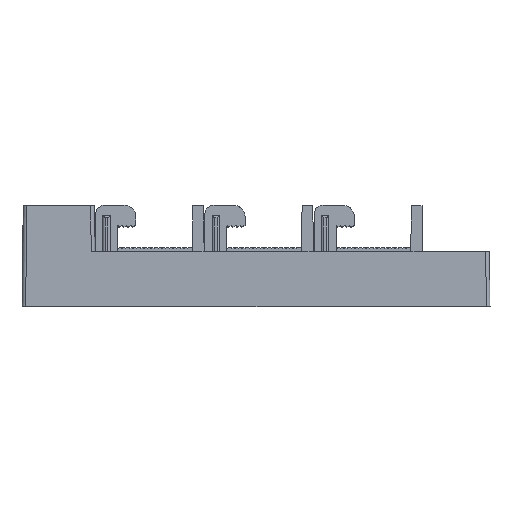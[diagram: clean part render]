
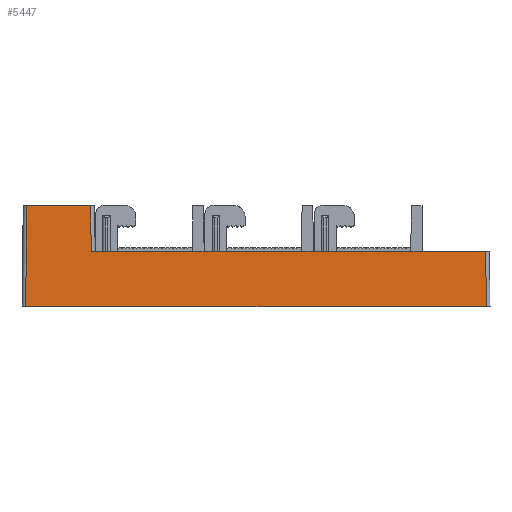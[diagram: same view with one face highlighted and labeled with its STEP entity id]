
A CAD part, left-side view. The second image highlights one B-rep face of the part: STEP entity #5447.
In plain terms, the highlighted planar face has unit normal (-1, 0, 0.012).
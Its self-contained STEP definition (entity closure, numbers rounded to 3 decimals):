
#1427 = EDGE_CURVE ( 'NONE', #52885, #62897, #76724, .T. ) ;
#1571 = LINE ( 'NONE', #44178, #34774 ) ;
#2860 = CARTESIAN_POINT ( 'NONE',  ( -92.057, -132.112, 259.762 ) ) ;
#2947 = LINE ( 'NONE', #70499, #38458 ) ;
#3259 = VECTOR ( 'NONE', #31513, 1000. ) ;
#4306 = VERTEX_POINT ( 'NONE', #62040 ) ;
#5045 = CARTESIAN_POINT ( 'NONE',  ( -91.752, -132.112, 284.762 ) ) ;
#5308 = VECTOR ( 'NONE', #27426, 1000. ) ;
#5447 = ADVANCED_FACE ( 'NONE', ( #68856 ), #64736, .T. ) ;
#5706 = CARTESIAN_POINT ( 'NONE',  ( -92.424, -132.112, 229.762 ) ) ;
#7959 = EDGE_CURVE ( 'NONE', #32228, #4306, #86227, .T. ) ;
#8314 = VERTEX_POINT ( 'NONE', #76175 ) ;
#11178 = EDGE_CURVE ( 'NONE', #53173, #52604, #67805, .T. ) ;
#11653 = VERTEX_POINT ( 'NONE', #61668 ) ;
#13556 = ORIENTED_EDGE ( 'NONE', *, *, #31509, .T. ) ;
#13646 = DIRECTION ( 'NONE',  ( 0., 1., 0. ) ) ;
#15588 = VECTOR ( 'NONE', #17327, 1000. ) ;
#17327 = DIRECTION ( 'NONE',  ( 0., 1., 0. ) ) ;
#19697 = VECTOR ( 'NONE', #77256, 1000. ) ;
#20625 = LINE ( 'NONE', #70457, #39296 ) ;
#21264 = AXIS2_PLACEMENT_3D ( 'NONE', #5706, #52115, #58848 ) ;
#21308 = VERTEX_POINT ( 'NONE', #73195 ) ;
#21630 = CARTESIAN_POINT ( 'NONE',  ( -92.43, -132.112, 229.262 ) ) ;
#24374 = ORIENTED_EDGE ( 'NONE', *, *, #81561, .T. ) ;
#24937 = DIRECTION ( 'NONE',  ( 0., 1., 0. ) ) ;
#25240 = ORIENTED_EDGE ( 'NONE', *, *, #7959, .T. ) ;
#26390 = ORIENTED_EDGE ( 'NONE', *, *, #52793, .T. ) ;
#27426 = DIRECTION ( 'NONE',  ( 0., -1., 0. ) ) ;
#28738 = CARTESIAN_POINT ( 'NONE',  ( -92.43, -130.118, 229.262 ) ) ;
#29031 = VECTOR ( 'NONE', #30831, 1000. ) ;
#29762 = VECTOR ( 'NONE', #57872, 1000. ) ;
#30796 = CARTESIAN_POINT ( 'NONE',  ( -92.057, -132.112, 259.762 ) ) ;
#30831 = DIRECTION ( 'NONE',  ( 0., 1., 0. ) ) ;
#31326 = CARTESIAN_POINT ( 'NONE',  ( -92.057, -132.112, 259.762 ) ) ;
#31509 = EDGE_CURVE ( 'NONE', #21308, #58412, #40787, .T. ) ;
#31513 = DIRECTION ( 'NONE',  ( 0.012, 0.012, 1. ) ) ;
#32228 = VERTEX_POINT ( 'NONE', #76182 ) ;
#32834 = EDGE_CURVE ( 'NONE', #8314, #53173, #2947, .T. ) ;
#33427 = ORIENTED_EDGE ( 'NONE', *, *, #66341, .T. ) ;
#34774 = VECTOR ( 'NONE', #71937, 1000. ) ;
#35822 = EDGE_CURVE ( 'NONE', #53990, #76337, #1571, .T. ) ;
#37580 = ORIENTED_EDGE ( 'NONE', *, *, #35822, .T. ) ;
#38458 = VECTOR ( 'NONE', #83381, 1000. ) ;
#39296 = VECTOR ( 'NONE', #43283, 1000. ) ;
#40580 = ORIENTED_EDGE ( 'NONE', *, *, #32834, .T. ) ;
#40787 = LINE ( 'NONE', #21630, #5308 ) ;
#42488 = DIRECTION ( 'NONE',  ( 0.012, 0.012, 1. ) ) ;
#42635 = VECTOR ( 'NONE', #42488, 1000. ) ;
#42918 = LINE ( 'NONE', #45828, #3259 ) ;
#43283 = DIRECTION ( 'NONE',  ( -0.012, 0.012, -1. ) ) ;
#44178 = CARTESIAN_POINT ( 'NONE',  ( -92.057, -132.112, 259.762 ) ) ;
#45530 = CARTESIAN_POINT ( 'NONE',  ( -92.057, -88.612, 259.762 ) ) ;
#45828 = CARTESIAN_POINT ( 'NONE',  ( -92.057, 86.888, 259.762 ) ) ;
#45962 = ORIENTED_EDGE ( 'NONE', *, *, #85703, .T. ) ;
#47251 = VECTOR ( 'NONE', #24937, 1000. ) ;
#52115 = DIRECTION ( 'NONE',  ( -1., 0., 0.012 ) ) ;
#52239 = CARTESIAN_POINT ( 'NONE',  ( -92.057, -129.746, 259.762 ) ) ;
#52604 = VERTEX_POINT ( 'NONE', #79062 ) ;
#52793 = EDGE_CURVE ( 'NONE', #4306, #21308, #20625, .T. ) ;
#52885 = VERTEX_POINT ( 'NONE', #52239 ) ;
#53173 = VERTEX_POINT ( 'NONE', #83068 ) ;
#53333 = EDGE_LOOP ( 'NONE', ( #79756, #33427, #37580, #45962, #24374, #40580, #67133, #79268, #25240, #26390, #13556, #56445 ) ) ;
#53990 = VERTEX_POINT ( 'NONE', #45530 ) ;
#56445 = ORIENTED_EDGE ( 'NONE', *, *, #81424, .T. ) ;
#57872 = DIRECTION ( 'NONE',  ( 0., 1., 0. ) ) ;
#58412 = VERTEX_POINT ( 'NONE', #68560 ) ;
#58848 = DIRECTION ( 'NONE',  ( 0.012, 0., 1. ) ) ;
#60453 = LINE ( 'NONE', #28738, #42635 ) ;
#61668 = CARTESIAN_POINT ( 'NONE',  ( -92.057, -28.612, 259.762 ) ) ;
#62040 = CARTESIAN_POINT ( 'NONE',  ( -91.752, 122.216, 284.762 ) ) ;
#62897 = VERTEX_POINT ( 'NONE', #67947 ) ;
#62949 = LINE ( 'NONE', #31326, #47251 ) ;
#64736 = PLANE ( 'NONE',  #21264 ) ;
#66230 = CARTESIAN_POINT ( 'NONE',  ( -92.057, -132.112, 259.762 ) ) ;
#66341 = EDGE_CURVE ( 'NONE', #62897, #53990, #62949, .T. ) ;
#67133 = ORIENTED_EDGE ( 'NONE', *, *, #11178, .T. ) ;
#67805 = LINE ( 'NONE', #2860, #29031 ) ;
#67947 = CARTESIAN_POINT ( 'NONE',  ( -92.057, -95.112, 259.762 ) ) ;
#68560 = CARTESIAN_POINT ( 'NONE',  ( -92.43, -130.118, 229.262 ) ) ;
#68856 = FACE_OUTER_BOUND ( 'NONE', #53333, .T. ) ;
#70457 = CARTESIAN_POINT ( 'NONE',  ( -91.752, 122.216, 284.762 ) ) ;
#70499 = CARTESIAN_POINT ( 'NONE',  ( -92.057, -132.112, 259.762 ) ) ;
#71056 = CARTESIAN_POINT ( 'NONE',  ( -92.057, -132.112, 259.762 ) ) ;
#71097 = EDGE_CURVE ( 'NONE', #52604, #32228, #42918, .T. ) ;
#71346 = CARTESIAN_POINT ( 'NONE',  ( -92.057, -35.112, 259.762 ) ) ;
#71937 = DIRECTION ( 'NONE',  ( 0., 1., 0. ) ) ;
#73195 = CARTESIAN_POINT ( 'NONE',  ( -92.43, 122.894, 229.262 ) ) ;
#76175 = CARTESIAN_POINT ( 'NONE',  ( -92.057, 24.888, 259.762 ) ) ;
#76182 = CARTESIAN_POINT ( 'NONE',  ( -91.752, 87.193, 284.762 ) ) ;
#76337 = VERTEX_POINT ( 'NONE', #71346 ) ;
#76724 = LINE ( 'NONE', #66230, #78871 ) ;
#77256 = DIRECTION ( 'NONE',  ( 0., 1., 0. ) ) ;
#78871 = VECTOR ( 'NONE', #13646, 1000. ) ;
#79062 = CARTESIAN_POINT ( 'NONE',  ( -92.057, 86.888, 259.762 ) ) ;
#79268 = ORIENTED_EDGE ( 'NONE', *, *, #71097, .T. ) ;
#79756 = ORIENTED_EDGE ( 'NONE', *, *, #1427, .T. ) ;
#81323 = LINE ( 'NONE', #30796, #19697 ) ;
#81424 = EDGE_CURVE ( 'NONE', #58412, #52885, #60453, .T. ) ;
#81494 = LINE ( 'NONE', #71056, #15588 ) ;
#81561 = EDGE_CURVE ( 'NONE', #11653, #8314, #81323, .T. ) ;
#83068 = CARTESIAN_POINT ( 'NONE',  ( -92.057, 31.388, 259.762 ) ) ;
#83381 = DIRECTION ( 'NONE',  ( 0., 1., 0. ) ) ;
#85703 = EDGE_CURVE ( 'NONE', #76337, #11653, #81494, .T. ) ;
#86227 = LINE ( 'NONE', #5045, #29762 ) ;
